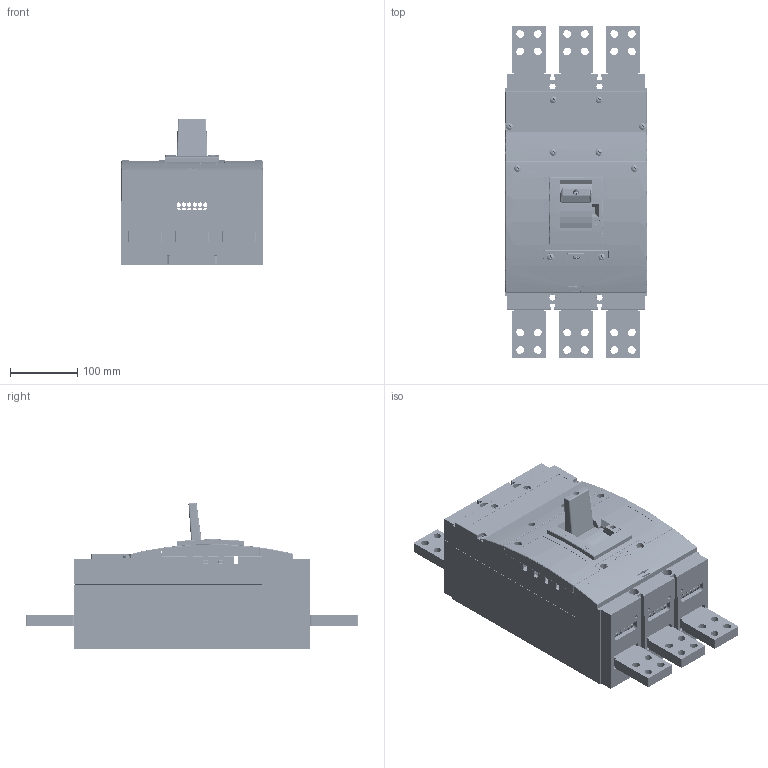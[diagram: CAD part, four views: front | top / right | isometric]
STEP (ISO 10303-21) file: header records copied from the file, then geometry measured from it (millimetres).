
FILE_DESCRIPTION (( 'STEP AP214' ), '1' );
FILE_NAME ('BL1600SE305__SE-BL.step', '2011-09-07T12:42:35', ( 'Radek Veselý' ), ( 'Siemens and Partners' ), 'SwSTEP 2.0', 'SolidWorks 2006303', '' );
FILE_SCHEMA (( 'AUTOMOTIVE_DESIGN' ));
Length unit declared in the file: millimetre
Products named in the file (1): BL1600SE305__SE-BL
Bounding box: 210 x 494 x 218.52 mm (x, y, z)
Volume: 3716043.2 mm3; surface area: 1421838.5 mm2
Topology: 47 solids, 47 shells, 6317 faces, 17370 edges, 11143 vertices
Faces by surface type: plane 3423, cylinder 2245, cone 222, sphere 158, torus 139, bspline 130
Entity records: 282599 total; most frequent: CARTESIAN_POINT 49998, ORIENTED_EDGE 34474, DIRECTION 33576, EDGE_CURVE 17237, AXIS2_PLACEMENT_3D 11220, VECTOR 11136, LINE 11136, VERTEX_POINT 11133
